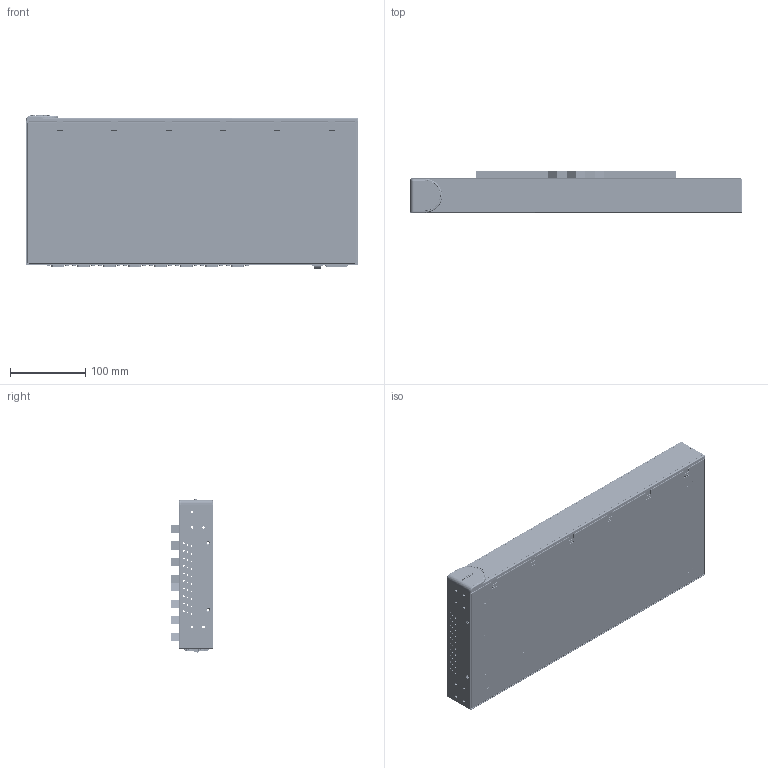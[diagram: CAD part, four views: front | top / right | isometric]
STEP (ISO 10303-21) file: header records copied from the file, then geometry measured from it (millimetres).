
FILE_DESCRIPTION((''),'2;1');
FILE_NAME('PRT0001','2011-05-20T',('Vincent_Huang'),(''),'PRO/ENGINEER BY PARAMETRIC TECHNOLOGY CORPORATION, 2004320','PRO/ENGINEER BY PARAMETRIC TECHNOLOGY CORPORATION, 2004320','');
FILE_SCHEMA(('CONFIG_CONTROL_DESIGN'));
Products named in the file (1): PRT0001
Bounding box: 440 x 55.6 x 203.1 mm (x, y, z)
Surface area: 770487.1 mm2 (no closed solid volume)
Topology: 0 solids, 166 shells, 5275 faces, 12604 edges, 8338 vertices
Faces by surface type: plane 2794, cylinder 2318, bspline 80, cone 50, extrusion 15, torus 14, sphere 4
Entity records: 157138 total; most frequent: CARTESIAN_POINT 29763, DIRECTION 27603, ORIENTED_EDGE 25100, EDGE_CURVE 12604, AXIS2_PLACEMENT_3D 10083, VERTEX_POINT 8341, VECTOR 7437, LINE 7422
